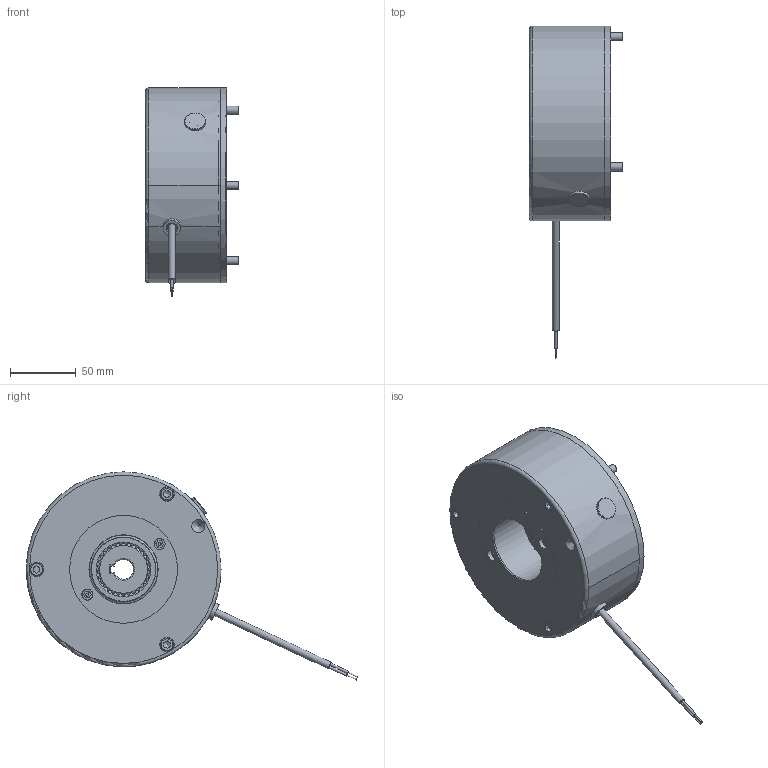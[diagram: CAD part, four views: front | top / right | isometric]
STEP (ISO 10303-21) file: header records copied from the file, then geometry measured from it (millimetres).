
FILE_DESCRIPTION(/* description */ (''),/* implementation_level */ '2;1');
FILE_NAME(/* name */ 'C:\SapWorkDir\Inventor\IP1\ConvertTempPath\5028781_IPT_000.ipt.stp',/* time_stamp */ '2020-09-17T15:03:09+02:00',/* author */ ('STRATE'),/* organization */ (''),/* preprocessor_version */ 'ST-DEVELOPER v17',/* originating_system */ 'Autodesk Inventor 2018',/* authorisation */ '');
FILE_SCHEMA (('AUTOMOTIVE_DESIGN { 1 0 10303 214 3 1 1 }'));
Length unit declared in the file: millimetre
Products named in the file (1): 5028781
Bounding box: 71.3 x 251.95 x 158.11 mm (x, y, z)
Volume: 735463.8 mm3; surface area: 151227.3 mm2
Topology: 4 solids, 4 shells, 427 faces, 1185 edges, 802 vertices
Faces by surface type: cylinder 291, plane 91, cone 24, torus 21
Full cylindrical faces by diameter (mm): 0.01 x1, 1 x2, 1.85 x2, 5.3 x1, 6 x3, 6.2 x3, 6.5 x3, 6.6 x4, 8.376 x2, 9.9 x3, 10 x4, 11 x3, 13.2 x1, 16 x1, 52 x2, 69.5 x2, 82 x1, 115 x1, 140 x1, 146.2 x2, 148 x1
Entity records: 15322 total; most frequent: CARTESIAN_POINT 3860, ORIENTED_EDGE 2366, DIRECTION 2236, EDGE_CURVE 1183, AXIS2_PLACEMENT_3D 918, VERTEX_POINT 802, CIRCLE 490, EDGE_LOOP 483
